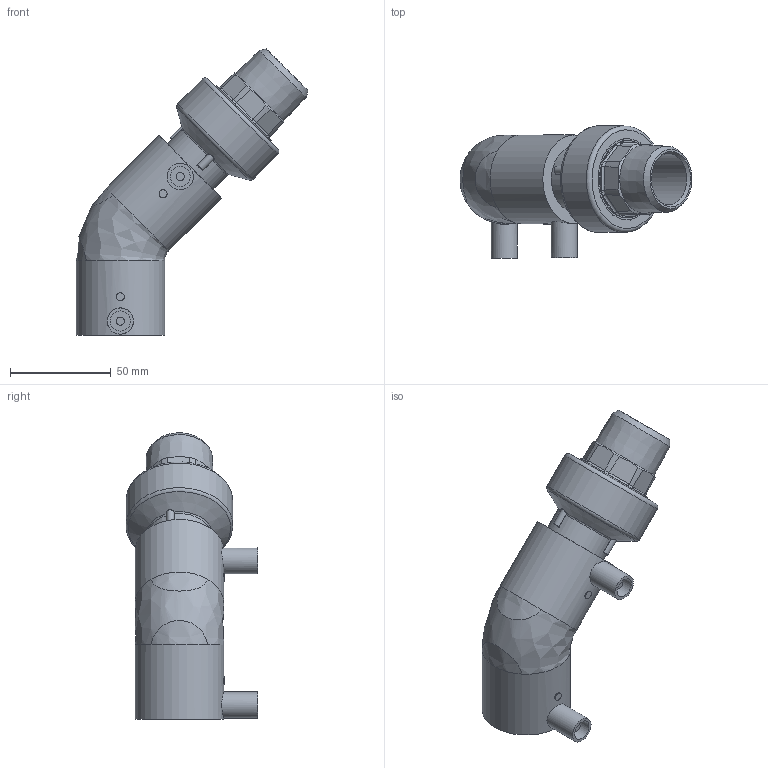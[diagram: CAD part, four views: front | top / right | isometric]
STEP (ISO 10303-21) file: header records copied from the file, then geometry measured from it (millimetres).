
FILE_DESCRIPTION(/* description */ ('Unknown'),/* implementation_level */ '2;1');
FILE_NAME(/* name */ 'GE4TMP032C',/* time_stamp */ '2021-03-02T16:00:57+01:00',/* author */ ('Unknown'),/* organization */ ('Unknown'),/* preprocessor_version */ 'ST-DEVELOPER v16.7',/* originating_system */ 'Solid Edge',/* authorisation */ 'Unknown');
FILE_SCHEMA (('AUTOMOTIVE_DESIGN {1 0 10303 214 3 1 1}'));
Length unit declared in the file: millimetre
Products named in the file (5): GE4TMP032C; GE4P032C; RTOMP032C; Parte PE 032; IOM032C
Assembly tree (4 placements, depth 3):
  GE4TMP032C
    GE4P032C
    RTOMP032C
      Parte PE 032
      IOM032C
Bounding box: 115.14 x 65.44 x 142.14 mm (x, y, z)
Volume: 140172.7 mm3; surface area: 62128.8 mm2
Topology: 3 solids, 3 shells, 493 faces, 1310 edges, 843 vertices
Faces by surface type: cylinder 220, plane 115, cone 68, bspline 63, torus 27
Full cylindrical faces by diameter (mm): 4 x4, 10 x2, 13 x2, 25.5 x1, 26 x1, 29.5 x2, 32 x3, 33.3 x2, 33.5 x2, 38.5 x1, 39 x2, 44 x6, 53 x1
Entity records: 19696 total; most frequent: CARTESIAN_POINT 6937, ORIENTED_EDGE 2488, DIRECTION 2018, EDGE_CURVE 1244, AXIS2_PLACEMENT_3D 915, VERTEX_POINT 827, B_SPLINE_CURVE_WITH_KNOTS 576, EDGE_LOOP 569
